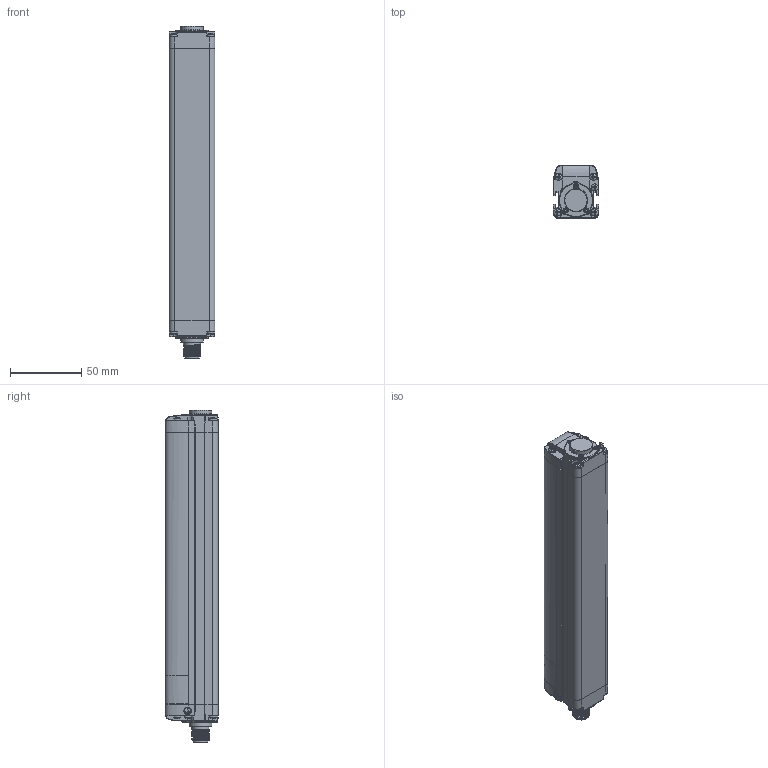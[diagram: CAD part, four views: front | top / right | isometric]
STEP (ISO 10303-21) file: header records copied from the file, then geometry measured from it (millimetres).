
FILE_DESCRIPTION(/* description */ (''),/* implementation_level */ '2;1');
FILE_NAME(/* name */ 'AP025786_00_1-DSD-0145.stp',/* time_stamp */ '2020-07-15T14:57:13+02:00',/* author */ (''),/* organization */ (''),/* preprocessor_version */ 'ST-DEVELOPER v16.7',/* originating_system */ 'SIEMENS PLM Software NX 12.0',/* authorisation */ '');
FILE_SCHEMA (('AUTOMOTIVE_DESIGN { 1 0 10303 214 3 1 1 1 }'));
Products named in the file (1): fgut13E8B3A0hzol
Bounding box: 32.3 x 36.9 x 233.34 mm (x, y, z)
Volume: 198301.8 mm3; surface area: 58833.7 mm2
Topology: 12 solids, 716 shells, 1613 faces, 5096 edges, 4061 vertices
Faces by surface type: cylinder 605, bspline 548, plane 376, sphere 49, cone 27, torus 8
Full cylindrical faces by diameter (mm): 1 x8, 1.5 x6, 2 x6, 2.05 x4, 2.5 x12, 2.7 x10, 2.9 x6, 3 x12, 3.4 x6, 3.6 x12, 4.7 x2, 5 x10, 5.3 x2, 7.5 x1, 8 x1, 8.2 x1, 9.3 x1, 9.5 x1, 9.55 x1, 10.5 x1, 11 x2, 12 x12, 13.97 x1, 14.3 x1, 16 x2
Entity records: 83739 total; most frequent: CARTESIAN_POINT 35467, ORIENTED_EDGE 6852, DIRECTION 5904, EDGE_CURVE 4852, VERTEX_POINT 3984, AXIS2_PLACEMENT_3D 2312, EDGE_LOOP 1848, PRESENTATION_STYLE_ASSIGNMENT 1659
